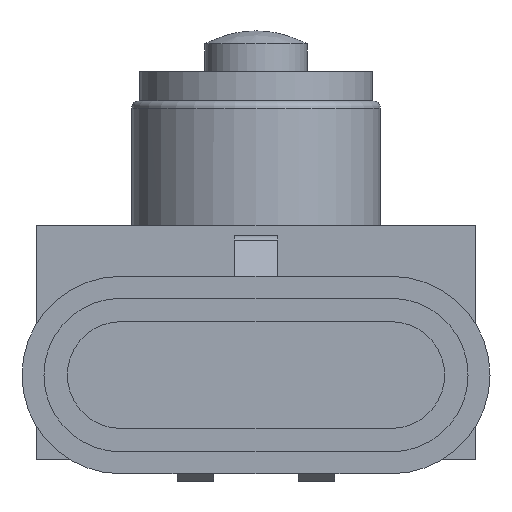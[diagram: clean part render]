
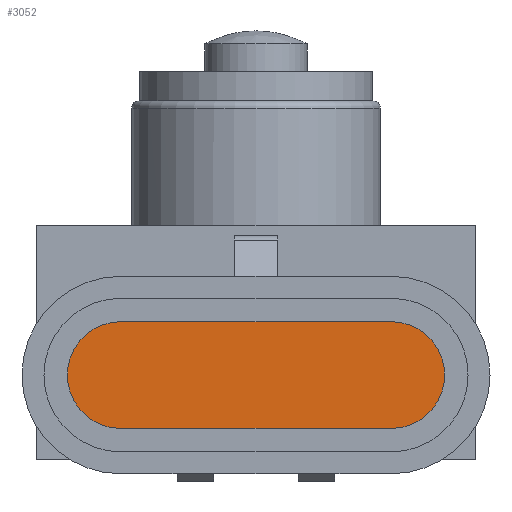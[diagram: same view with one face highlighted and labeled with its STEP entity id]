
A CAD part, front view. The second image highlights one B-rep face of the part: STEP entity #3052.
In plain terms, the highlighted planar face has unit normal (0, -1, 0) as drawn and (0, 0, -1) by its records, which use the part's own axes.
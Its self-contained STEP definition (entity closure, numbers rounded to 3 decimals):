
#147=LINE('',#4713,#443);
#151=LINE('',#4725,#447);
#443=VECTOR('',#3805,18.5);
#447=VECTOR('',#3817,18.5);
#666=PLANE('',#3286);
#830=FACE_OUTER_BOUND('',#1016,.T.);
#1016=EDGE_LOOP('',(#2277,#2278,#2279,#2280));
#1196=CIRCLE('',#3281,3.65);
#1198=CIRCLE('',#3285,3.65);
#1380=VERTEX_POINT('',#4710);
#1381=VERTEX_POINT('',#4712);
#1383=VERTEX_POINT('',#4718);
#1385=VERTEX_POINT('',#4724);
#1712=EDGE_CURVE('',#1381,#1380,#147,.T.);
#1715=EDGE_CURVE('',#1383,#1381,#1196,.T.);
#1718=EDGE_CURVE('',#1385,#1383,#151,.T.);
#1721=EDGE_CURVE('',#1380,#1385,#1198,.T.);
#2277=ORIENTED_EDGE('',*,*,#1715,.T.);
#2278=ORIENTED_EDGE('',*,*,#1712,.T.);
#2279=ORIENTED_EDGE('',*,*,#1721,.T.);
#2280=ORIENTED_EDGE('',*,*,#1718,.T.);
#3052=ADVANCED_FACE('',(#830),#666,.F.);
#3281=AXIS2_PLACEMENT_3D('',#4719,#3811,#3812);
#3285=AXIS2_PLACEMENT_3D('',#4729,#3823,#3824);
#3286=AXIS2_PLACEMENT_3D('',#4730,#3825,#3826);
#3805=DIRECTION('',(1.,0.,0.));
#3811=DIRECTION('center_axis',(0.,0.,-1.));
#3812=DIRECTION('ref_axis',(1.,0.,0.));
#3817=DIRECTION('',(-1.,0.,0.));
#3823=DIRECTION('center_axis',(0.,0.,-1.));
#3824=DIRECTION('ref_axis',(1.,0.,0.));
#3825=DIRECTION('center_axis',(0.,0.,1.));
#3826=DIRECTION('ref_axis',(1.,0.,0.));
#4710=CARTESIAN_POINT('',(9.25,-2.1,-60.5));
#4712=CARTESIAN_POINT('',(-9.25,-2.1,-60.5));
#4713=CARTESIAN_POINT('',(-9.25,-2.1,-60.5));
#4718=CARTESIAN_POINT('',(-9.25,-9.4,-60.5));
#4719=CARTESIAN_POINT('Origin',(-9.25,-5.75,-60.5));
#4724=CARTESIAN_POINT('',(9.25,-9.4,-60.5));
#4725=CARTESIAN_POINT('',(9.25,-9.4,-60.5));
#4729=CARTESIAN_POINT('Origin',(9.25,-5.75,-60.5));
#4730=CARTESIAN_POINT('Origin',(-9.25,-5.75,-60.5));
